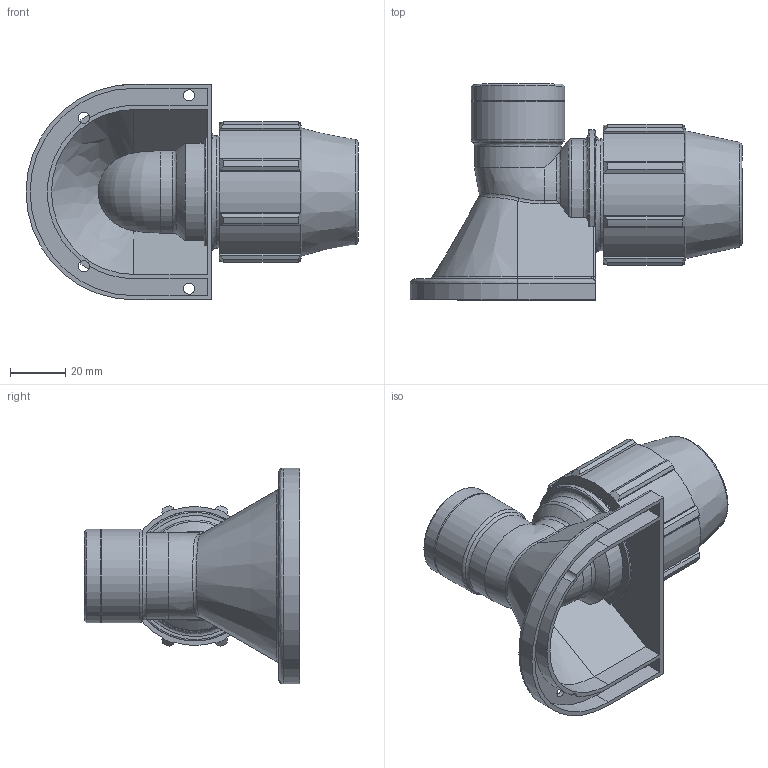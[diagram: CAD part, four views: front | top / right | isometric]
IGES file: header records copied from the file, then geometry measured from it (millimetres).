
Global section: file name: 077500025007__0775060250070A.ipt; native system: Autodesk Inventor 2015; preprocessor: unknown; author: KIM; date: 20170608.042256; units: millimetre
Bounding box: 120 x 78 x 78 mm (x, y, z)
Volume: 114229.8 mm3; surface area: 44722.4 mm2
Topology: 1 solids, 1 shells, 163 faces, 456 edges, 294 vertices
Faces by surface type: plane 68, cylinder 37, revolution 34, cone 15, bspline 9
Full cylindrical faces by diameter (mm): 31.352 x1, 33.764 x2, 40.5 x1
